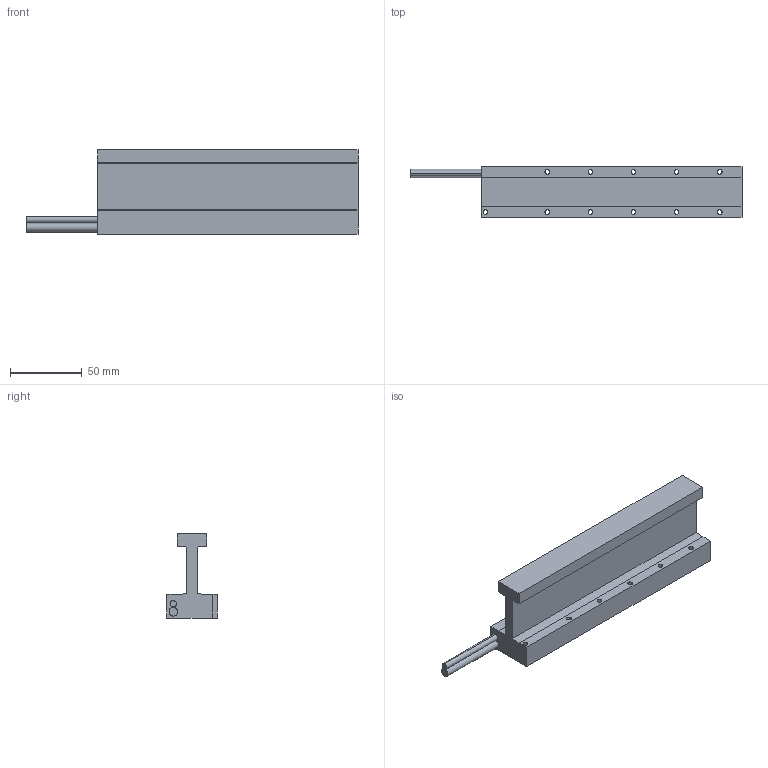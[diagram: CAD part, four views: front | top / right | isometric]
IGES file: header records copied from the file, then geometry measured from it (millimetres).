
Start section: SolidWorks IGES file using analytic representation for surfaces
Global section: file name: C:\Users\admin\Desktop\LM无铁芯U型电机 - 副本\FU300模型图\FU300-181.IGS; native system: SolidWorks 2016; preprocessor: SolidWorks 2016; author: admin; date: 201103.134007; units: millimetre
Bounding box: 231 x 35 x 58.7 mm (x, y, z)
Surface area: 43697.9 mm2 (no closed solid volume)
Topology: 0 solids, 0 shells, 44 faces, 1020 edges, 1020 vertices
Faces by surface type: revolution 26, bspline 18
